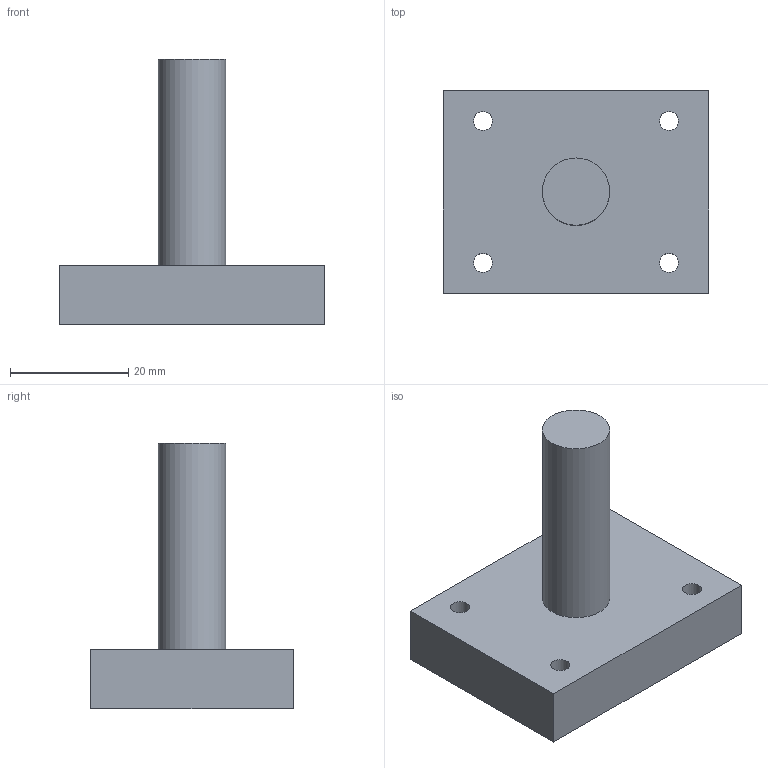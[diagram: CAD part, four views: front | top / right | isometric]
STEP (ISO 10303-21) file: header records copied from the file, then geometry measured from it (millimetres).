
FILE_DESCRIPTION(('Mechanical CAD reference from nasji.com'),'2;1');
FILE_NAME('NASJI.step','',(''),(''),'','NASJI distribution','');
FILE_SCHEMA(('AUTOMOTIVE_DESIGN { 1 0 10303 214 1 1 1 1 }'));
Length unit declared in the file: millimetre
Products named in the file (1): Open CASCADE STEP translator 7.8 171
Bounding box: 45 x 34.3 x 45 mm (x, y, z)
Volume: 18685.8 mm3; surface area: 6264.3 mm2
Topology: 1 solids, 1 shells, 12 faces, 27 edges, 18 vertices
Faces by surface type: plane 7, cylinder 5
Full cylindrical faces by diameter (mm): 3.2 x4, 11.4 x1
Entity records: 742 total; most frequent: CARTESIAN_POINT 160, DIRECTION 109, LINE 61, VECTOR 61, ORIENTED_EDGE 54, PCURVE 54, DEFINITIONAL_REPRESENTATION 54, EDGE_CURVE 27
